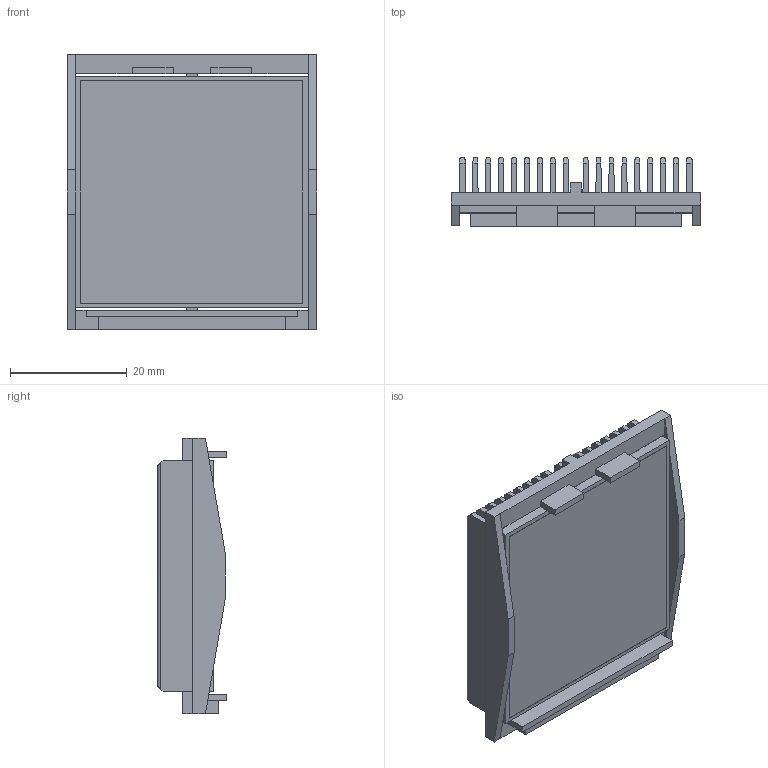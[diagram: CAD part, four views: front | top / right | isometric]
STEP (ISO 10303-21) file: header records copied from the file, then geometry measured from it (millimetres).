
FILE_DESCRIPTION (( 'STEP AP214' ), '1' );
FILE_NAME ('INL40001-10-1.7Y.STEP', '2023-03-01T17:07:32', ( '' ), ( '' ), 'SwSTEP 2.0', 'SolidWorks 2020', '' );
FILE_SCHEMA (( 'AUTOMOTIVE_DESIGN' ));
Length unit declared in the file: millimetre
Products named in the file (1): INL40001-10-1.7Y
Bounding box: 42.7 x 11.8 x 47.1 mm (x, y, z)
Volume: 9444.8 mm3; surface area: 19801 mm2
Topology: 3 solids, 3 shells, 198 faces, 578 edges, 384 vertices
Faces by surface type: plane 146, cylinder 52
Entity records: 8712 total; most frequent: CARTESIAN_POINT 1269, ORIENTED_EDGE 1156, DIRECTION 1008, EDGE_CURVE 578, LINE 474, VECTOR 474, VERTEX_POINT 384, AXIS2_PLACEMENT_3D 267
